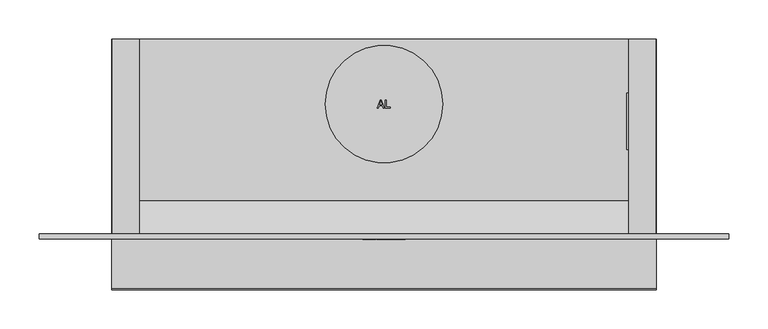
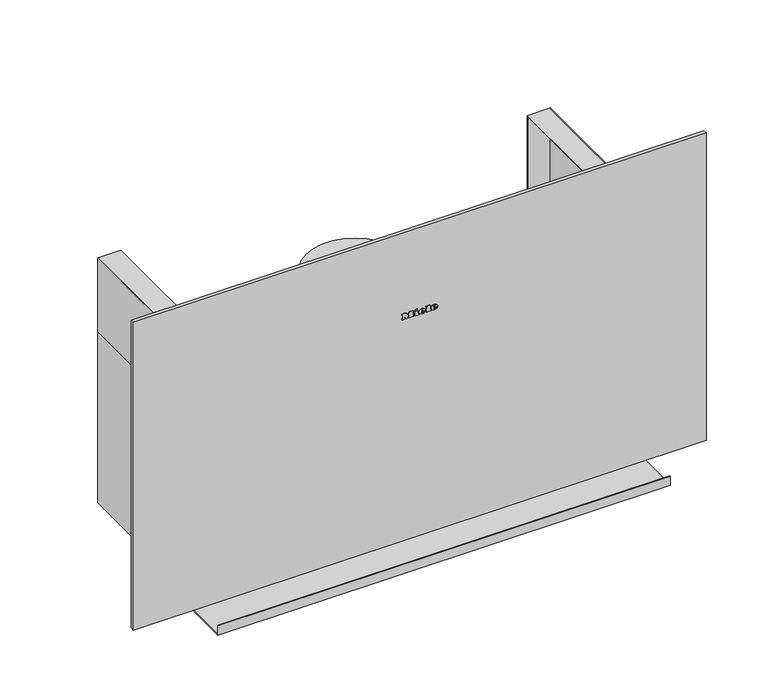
"""IFC4 building model written with IfcOpenShell, lengths in millimetres: proxy geometry, 11678440_D_DA9091W_OBSW : 28909140_D_11678440_DA9091W_OBSW."""

from ifc_helpers import new_model, si_unit, point, frame, frame_2d, origin, place, context, project, spatial, polyline, circle_curve, ellipse_curve, trimmed, segment, composite_curve, outline, extrude, faceted_brep, source, transform, mapped, element, save
from ifc_brep_helpers import plane_surface, cylinder_surface, revolved_surface, extruded_surface, advanced_brep


def specialty_equipment_b4d667ea(model_context):
    return source(origin(), model_context, "Body", "SolidModel", [
        advanced_brep(
        [(21.38, -256.0, 363.133), (21.38, -256.0, 364.042), (27.401, -256.0, 364.042), (16.925, -256.0, 364.042), (19.4, -256.0, 361.0), (27.248, -256.0, 363.133), (24.53, -256.0, 363.133), (22.388, -256.0, 362.125), (21.38, -256.0, 365.194), (21.38, -256.0, 366.175), (22.919, -256.0, 366.175), (22.919, -256.0, 365.194), (21.38, -255.0, 363.133), (22.388, -255.0, 362.125), (24.53, -255.0, 363.133), (27.248, -255.0, 363.133), (19.4, -255.0, 361.0), (16.925, -255.0, 364.042), (27.401, -255.0, 364.042), (21.38, -255.0, 364.042), (21.38, -255.0, 365.194), (22.919, -255.0, 365.194), (22.919, -255.0, 366.175), (21.38, -255.0, 366.175)],
        [
            (0, 1),
            (1, 2),
            (2, 3, ellipse_curve(frame((22.163, -256.0, 364.042), z_axis=(0.0, -1.0, 0.0), x_axis=(-1.0, 0.0, 0.0)), 5.238, 4.329)),
            (3, 4, circle_curve(frame((20.4080491, -256.0, 364.348), z_axis=(0.0, -1.0, 0.0), x_axis=(0.0, 0.0, -1.0)), 3.4964649)),
            (4, 5, circle_curve(frame((22.0581428, -256.0, 366.724), z_axis=(0.0, -1.0, 0.0), x_axis=(0.0, 0.0, -1.0)), 6.3110933)),
            (5, 6),
            (6, 7, circle_curve(frame((22.8279412, -256.0, 363.97), z_axis=(0.0, 1.0, 0.0), x_axis=(0.0, 0.0, -1.0)), 1.896727)),
            (7, 0, circle_curve(frame((22.388, -256.0, 363.133), z_axis=(0.0, 1.0, 0.0), x_axis=(0.0, 0.0, -1.0)), 1.008)),
            (8, 9),
            (9, 10, circle_curve(frame((22.1495, -256.0, 366.175), z_axis=(0.0, 1.0, 0.0), x_axis=(0.0, 0.0, -1.0)), 0.7695)),
            (10, 11),
            (11, 8),
            (12, 13, circle_curve(frame((22.388, -255.0, 363.133), z_axis=(0.0, -1.0, 0.0), x_axis=(0.0, 0.0, -1.0)), 1.008)),
            (13, 14, circle_curve(frame((22.8279412, -255.0, 363.97), z_axis=(0.0, -1.0, 0.0), x_axis=(0.0, 0.0, -1.0)), 1.896727)),
            (14, 15),
            (15, 16, circle_curve(frame((22.0581428, -255.0, 366.724), z_axis=(0.0, 1.0, 0.0), x_axis=(0.0, 0.0, -1.0)), 6.3110933)),
            (16, 17, circle_curve(frame((20.4080491, -255.0, 364.348), z_axis=(0.0, 1.0, 0.0), x_axis=(0.0, 0.0, -1.0)), 3.4964649)),
            (17, 18, ellipse_curve(frame((22.163, -255.0, 364.042), z_axis=(0.0, 1.0, 0.0), x_axis=(-1.0, 0.0, 0.0)), 5.238, 4.329)),
            (18, 19),
            (19, 12),
            (20, 21),
            (21, 22),
            (22, 23, circle_curve(frame((22.1495, -255.0, 366.175), z_axis=(0.0, -1.0, 0.0), x_axis=(0.0, 0.0, -1.0)), 0.7695)),
            (23, 20),
            (0, 12),
            (19, 1),
            (18, 2),
            (5, 15),
            (14, 6),
            (17, 3),
            (13, 7),
            (16, 4),
            (8, 20),
            (23, 9),
            (22, 10),
            (21, 11),
        ],
        [
            plane_surface(frame((21.38, -256.0, 364.042), z_axis=(0.0, -1.0, 0.0), x_axis=(0.0, 0.0, 1.0))),
            plane_surface(frame((21.38, -255.0, 364.042), z_axis=(0.0, 1.0, 0.0), x_axis=(0.0, 0.0, -1.0))),
            plane_surface(frame((21.38, -256.0, 363.133), z_axis=(1.0, 0.0, 0.0), x_axis=(0.0, 1.0, 0.0))),
            plane_surface(frame((21.38, -256.0, 364.042), z_axis=(0.0, 0.0, -1.0), x_axis=(0.0, 1.0, 0.0))),
            plane_surface(frame((27.248, -256.0, 363.133), z_axis=(0.0, 0.0, 1.0), x_axis=(0.0, 1.0, 0.0))),
            extruded_surface(trimmed(ellipse_curve(frame((22.163, -254.0, 364.042), z_axis=(0.0, -1.0, 0.0), x_axis=(-1.0, 0.0, 0.0)), 5.238, 4.329), [point((27.401, -254.0, 364.042))], [point((16.925, -254.0, 364.042))], True, "CARTESIAN"), (0.0, -1.0, 0.0), 1.0),
            revolved_surface(polyline([(22.8279412, -255.0, 362.07327300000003), (22.8279412, -256.0, 362.07327300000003)]), (22.8279412, -255.0, 363.97), (0.0, 1.0, 0.0)),
            revolved_surface(polyline([(22.388, -255.0, 362.125), (22.388, -256.0, 362.125)]), (22.388, -255.0, 363.133), (0.0, 1.0, 0.0)),
            cylinder_surface(frame((20.4080491, -255.0, 364.348), z_axis=(0.0, -1.0, 0.0), x_axis=(0.0, 0.0, -1.0)), 3.4964649),
            cylinder_surface(frame((22.0581428, -255.0, 366.724), z_axis=(0.0, -1.0, 0.0), x_axis=(0.0, 0.0, -1.0)), 6.3110933),
            plane_surface(frame((21.38, -256.0, 365.194), z_axis=(1.0, 0.0, 0.0), x_axis=(0.0, 1.0, 0.0))),
            revolved_surface(polyline([(22.1495, -255.0, 365.4055), (22.1495, -256.0, 365.4055)]), (22.1495, -255.0, 366.175), (0.0, 1.0, 0.0)),
            plane_surface(frame((22.919, -256.0, 366.175), z_axis=(-1.0, 0.0, 0.0), x_axis=(0.0, 1.0, 0.0))),
            plane_surface(frame((22.919, -256.0, 365.194), z_axis=(0.0, 0.0, 1.0), x_axis=(0.0, 1.0, 0.0))),
        ],
        [
            (0, [[1, 2, 3, 4, 5, 6, 7, 8], [9, 10, 11, 12]]),
            (1, [[13, 14, 15, 16, 17, 18, 19, 20], [21, 22, 23, 24]]),
            (2, [[-1, 25, -20, 26]]),
            (3, [[-2, -26, -19, 27]]),
            (4, [[-6, 28, -15, 29]]),
            (5, [[-3, -27, -18, 30]]),
            (6, [[-7, -29, -14, 31]]),
            (7, [[-8, -31, -13, -25]]),
            (8, [[-4, -30, -17, 32]]),
            (9, [[-5, -32, -16, -28]]),
            (10, [[-9, 33, -24, 34]]),
            (11, [[-10, -34, -23, 35]]),
            (12, [[-11, -35, -22, 36]]),
            (13, [[-12, -36, -21, -33]]),
        ],
    ),
        advanced_brep(
        [(2.597, -256.0, 363.133), (2.597, -256.0, 364.042), (8.618, -256.0, 364.042), (-1.858, -256.0, 364.042), (0.617, -256.0, 361.0), (8.465, -256.0, 363.133), (5.747, -256.0, 363.133), (3.605, -256.0, 362.125), (2.597, -256.0, 365.194), (2.597, -256.0, 366.175), (4.136, -256.0, 366.175), (4.136, -256.0, 365.194), (2.597, -255.0, 363.133), (3.605, -255.0, 362.125), (5.747, -255.0, 363.133), (8.465, -255.0, 363.133), (0.617, -255.0, 361.0), (-1.858, -255.0, 364.042), (8.618, -255.0, 364.042), (2.597, -255.0, 364.042), (2.597, -255.0, 365.194), (4.136, -255.0, 365.194), (4.136, -255.0, 366.175), (2.597, -255.0, 366.175)],
        [
            (0, 1),
            (1, 2),
            (2, 3, ellipse_curve(frame((3.38, -256.0, 364.042), z_axis=(0.0, -1.0, 0.0), x_axis=(-1.0, 0.0, 0.0)), 5.238, 4.329)),
            (3, 4, circle_curve(frame((1.6250491, -256.0, 364.348), z_axis=(0.0, -1.0, 0.0), x_axis=(0.0, 0.0, -1.0)), 3.4964649)),
            (4, 5, circle_curve(frame((3.2751428, -256.0, 366.724), z_axis=(0.0, -1.0, 0.0), x_axis=(0.0, 0.0, -1.0)), 6.3110933)),
            (5, 6),
            (6, 7, circle_curve(frame((4.0449412, -256.0, 363.97), z_axis=(0.0, 1.0, 0.0), x_axis=(0.0, 0.0, -1.0)), 1.896727)),
            (7, 0, circle_curve(frame((3.605, -256.0, 363.133), z_axis=(0.0, 1.0, 0.0), x_axis=(0.0, 0.0, -1.0)), 1.008)),
            (8, 9),
            (9, 10, circle_curve(frame((3.3665, -256.0, 366.175), z_axis=(0.0, 1.0, 0.0), x_axis=(0.0, 0.0, -1.0)), 0.7695)),
            (10, 11),
            (11, 8),
            (12, 13, circle_curve(frame((3.605, -255.0, 363.133), z_axis=(0.0, -1.0, 0.0), x_axis=(0.0, 0.0, -1.0)), 1.008)),
            (13, 14, circle_curve(frame((4.0449412, -255.0, 363.97), z_axis=(0.0, -1.0, 0.0), x_axis=(0.0, 0.0, -1.0)), 1.896727)),
            (14, 15),
            (15, 16, circle_curve(frame((3.2751428, -255.0, 366.724), z_axis=(0.0, 1.0, 0.0), x_axis=(0.0, 0.0, -1.0)), 6.3110933)),
            (16, 17, circle_curve(frame((1.6250491, -255.0, 364.348), z_axis=(0.0, 1.0, 0.0), x_axis=(0.0, 0.0, -1.0)), 3.4964649)),
            (17, 18, ellipse_curve(frame((3.38, -255.0, 364.042), z_axis=(0.0, 1.0, 0.0), x_axis=(-1.0, 0.0, 0.0)), 5.238, 4.329)),
            (18, 19),
            (19, 12),
            (20, 21),
            (21, 22),
            (22, 23, circle_curve(frame((3.3665, -255.0, 366.175), z_axis=(0.0, -1.0, 0.0), x_axis=(0.0, 0.0, -1.0)), 0.7695)),
            (23, 20),
            (0, 12),
            (19, 1),
            (18, 2),
            (5, 15),
            (14, 6),
            (17, 3),
            (13, 7),
            (16, 4),
            (8, 20),
            (23, 9),
            (22, 10),
            (21, 11),
        ],
        [
            plane_surface(frame((2.597, -256.0, 364.042), z_axis=(0.0, -1.0, 0.0), x_axis=(0.0, 0.0, 1.0))),
            plane_surface(frame((2.597, -255.0, 364.042), z_axis=(0.0, 1.0, 0.0), x_axis=(0.0, 0.0, -1.0))),
            plane_surface(frame((2.597, -256.0, 363.133), z_axis=(1.0, 0.0, 0.0), x_axis=(0.0, 1.0, 0.0))),
            plane_surface(frame((2.597, -256.0, 364.042), z_axis=(0.0, 0.0, -1.0), x_axis=(0.0, 1.0, 0.0))),
            plane_surface(frame((8.465, -256.0, 363.133), z_axis=(0.0, 0.0, 1.0), x_axis=(0.0, 1.0, 0.0))),
            extruded_surface(trimmed(ellipse_curve(frame((3.38, -254.0, 364.042), z_axis=(0.0, -1.0, 0.0), x_axis=(-1.0, 0.0, 0.0)), 5.238, 4.329), [point((8.618, -254.0, 364.042))], [point((-1.858, -254.0, 364.042))], True, "CARTESIAN"), (0.0, -1.0, 0.0), 1.0),
            revolved_surface(polyline([(4.0449412, -255.0, 362.07327300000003), (4.0449412, -256.0, 362.07327300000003)]), (4.0449412, -255.0, 363.97), (0.0, 1.0, 0.0)),
            revolved_surface(polyline([(3.605, -255.0, 362.125), (3.605, -256.0, 362.125)]), (3.605, -255.0, 363.133), (0.0, 1.0, 0.0)),
            cylinder_surface(frame((1.6250491, -255.0, 364.348), z_axis=(0.0, -1.0, 0.0), x_axis=(0.0, 0.0, -1.0)), 3.4964649),
            cylinder_surface(frame((3.2751428, -255.0, 366.724), z_axis=(0.0, -1.0, 0.0), x_axis=(0.0, 0.0, -1.0)), 6.3110933),
            plane_surface(frame((2.597, -256.0, 365.194), z_axis=(1.0, 0.0, 0.0), x_axis=(0.0, 1.0, 0.0))),
            revolved_surface(polyline([(3.3665, -255.0, 365.4055), (3.3665, -256.0, 365.4055)]), (3.3665, -255.0, 366.175), (0.0, 1.0, 0.0)),
            plane_surface(frame((4.136, -256.0, 366.175), z_axis=(-1.0, 0.0, 0.0), x_axis=(0.0, 1.0, 0.0))),
            plane_surface(frame((4.136, -256.0, 365.194), z_axis=(0.0, 0.0, 1.0), x_axis=(0.0, 1.0, 0.0))),
        ],
        [
            (0, [[1, 2, 3, 4, 5, 6, 7, 8], [9, 10, 11, 12]]),
            (1, [[13, 14, 15, 16, 17, 18, 19, 20], [21, 22, 23, 24]]),
            (2, [[-1, 25, -20, 26]]),
            (3, [[-2, -26, -19, 27]]),
            (4, [[-6, 28, -15, 29]]),
            (5, [[-3, -27, -18, 30]]),
            (6, [[-7, -29, -14, 31]]),
            (7, [[-8, -31, -13, -25]]),
            (8, [[-4, -30, -17, 32]]),
            (9, [[-5, -32, -16, -28]]),
            (10, [[-9, 33, -24, 34]]),
            (11, [[-10, -34, -23, 35]]),
            (12, [[-11, -35, -22, 36]]),
            (13, [[-12, -36, -21, -33]]),
        ],
    ),
        extrude(outline(polyline([(369.469, -7.24), (368.011, -6.556), (369.433, -3.505), (370.891, -4.18), (369.469, -7.24)])), frame((0.0, -256.0, 0.0), z_axis=(0.0, 1.0, 0.0), x_axis=(0.0, 0.0, 1.0)), (0.0, 0.0, 1.0), 1.0),
        extrude(outline(polyline([(367.813, -9.463), (366.202, -9.463), (366.202, -8.392), (362.512, -8.392), (362.512, -9.463), (361.0, -9.463), (361.0, -2.362), (362.512, -2.362), (362.512, -3.406), (367.813, -3.406), (367.813, -9.463)])), frame((0.0, -256.0, 0.0), z_axis=(0.0, 1.0, 0.0), x_axis=(0.0, 0.0, 1.0)), (0.0, 0.0, 1.0), 1.0),
        extrude(outline(polyline([(368.533, 9.122), (368.533, 10.202), (362.512, 10.202), (362.512, 9.122), (361.0, 9.122), (361.0, 16.421), (362.512, 16.421), (362.512, 15.314), (370.0, 15.314), (370.0, 9.122), (368.533, 9.122)])), frame((0.0, -256.0, 0.0), z_axis=(0.0, 1.0, 0.0), x_axis=(0.0, 0.0, 1.0)), (0.0, 0.0, 1.0), 1.0),
        extrude(outline(polyline([(368.533, -27.4), (368.533, -26.311), (362.512, -26.311), (362.512, -27.4), (361.0, -27.4), (361.0, -23.44), (362.512, -23.44), (362.512, -24.52), (366.3341247, -24.52), (361.0, -20.497), (366.4402223, -16.456), (362.512, -16.456), (362.512, -17.563), (361.0, -17.563), (361.0, -10.381), (362.512, -10.381), (362.512, -11.524), (368.533, -11.524), (368.533, -10.381), (370.0, -10.381), (370.0, -15.862), (366.625, -18.49), (370.0, -21.127), (370.0, -27.4), (368.533, -27.4)])), frame((0.0, -256.0, 0.0), z_axis=(0.0, 1.0, 0.0), x_axis=(0.0, 0.0, 1.0)), (0.0, 0.0, 1.0), 1.0),
        extrude(outline(polyline([(119.0, -217.5), (119.0, -229.5), (-119.0, -229.5), (-119.0, -217.5), (119.0, -217.5)])), frame((0.0, 0.0, 24.0), z_axis=(0.0, 0.0, 1.0), x_axis=(1.0, 0.0, 0.0)), (0.0, 0.0, 1.0), 3.0),
        extrude(outline(composite_curve([segment(trimmed(circle_curve(frame_2d((123.5, -212.0)), 1.5), [point((123.5, -210.5))], [point((125.0, -212.0))], False, "CARTESIAN"), True, "CONTINUOUS"), segment(polyline([(125.0, -212.0), (125.0, -235.0)]), True, "CONTINUOUS"), segment(trimmed(circle_curve(frame_2d((123.5, -235.0)), 1.5), [point((125.0, -235.0))], [point((123.5, -236.5))], False, "CARTESIAN"), True, "CONTINUOUS"), segment(polyline([(123.5, -236.5), (-123.5, -236.5)]), True, "CONTINUOUS"), segment(trimmed(circle_curve(frame_2d((-123.5, -235.0)), 1.5), [point((-123.5, -236.5))], [point((-125.0, -235.0))], False, "CARTESIAN"), True, "CONTINUOUS"), segment(polyline([(-125.0, -235.0), (-125.0, -212.0)]), True, "CONTINUOUS"), segment(trimmed(circle_curve(frame_2d((-123.5, -212.0)), 1.5), [point((-125.0, -212.0))], [point((-123.5, -210.5))], False, "CARTESIAN"), True, "CONTINUOUS"), segment(polyline([(-123.5, -210.5), (123.5, -210.5)]), True, "CONTINUOUS")], self_intersect=False), holes=[polyline([(119.0, -217.5), (-119.0, -217.5), (-119.0, -229.5), (119.0, -229.5), (119.0, -217.5)])]), frame((0.0, 0.0, 24.0), z_axis=(0.0, 0.0, 1.0), x_axis=(1.0, 0.0, 0.0)), (0.0, 0.0, 1.0), 3.0),
        extrude(outline(polyline([(-139.5, -146.0), (-139.5, -189.0), (-172.5, -189.0), (-172.5, -146.0), (-139.5, -146.0)]), holes=[polyline([(-146.0, -152.5), (-166.0, -152.5), (-166.0, -182.5), (-146.0, -182.5), (-146.0, -152.5)])]), frame((0.0, 0.0, 26.0), z_axis=(0.0, 0.0, 1.0), x_axis=(1.0, 0.0, 0.0)), (0.0, 0.0, 1.0), 1.5),
        extrude(outline(polyline([(139.5, -146.0), (172.5, -146.0), (172.5, -189.0), (139.5, -189.0), (139.5, -146.0)]), holes=[polyline([(146.0, -152.5), (146.0, -182.5), (166.0, -182.5), (166.0, -152.5), (146.0, -152.5)])]), frame((0.0, 0.0, 26.0), z_axis=(0.0, 0.0, 1.0), x_axis=(1.0, 0.0, 0.0)), (0.0, 0.0, 1.0), 1.5),
        extrude(outline(polyline([(-9.0, -29.0), (-9.0, -189.0), (-303.0, -189.0), (-303.0, -29.0), (-9.0, -29.0)])), frame((0.0, 0.0, 27.5), z_axis=(0.0, 0.0, 1.0), x_axis=(1.0, 0.0, 0.0)), (0.0, 0.0, 1.0), 6.0),
        extrude(outline(polyline([(303.0, -29.0), (303.0, -189.0), (9.0, -189.0), (9.0, -29.0), (303.0, -29.0)])), frame((0.0, 0.0, 27.5), z_axis=(0.0, 0.0, 1.0), x_axis=(1.0, 0.0, 0.0)), (0.0, 0.0, 1.0), 6.0),
        extrude(outline(polyline([(312.0, -20.0), (312.0, -198.0), (-312.0, -198.0), (-312.0, -20.0), (312.0, -20.0)]), holes=[polyline([(-9.0, -29.0), (-303.0, -29.0), (-303.0, -189.0), (-9.0, -189.0), (-9.0, -29.0)]), polyline([(303.0, -29.0), (9.0, -29.0), (9.0, -189.0), (303.0, -189.0), (303.0, -29.0)])]), frame((0.0, 0.0, 26.0), z_axis=(0.0, 0.0, 1.0), x_axis=(1.0, 0.0, 0.0)), (0.0, 0.0, 1.0), 9.0),
        extrude(outline(polyline([(-146.0, -162.5), (-146.0, -182.5), (-166.0, -182.5), (-166.0, -162.5), (-146.0, -162.5)])), frame((0.0, 0.0, 26.0), z_axis=(0.0, 0.0, 1.0), x_axis=(1.0, 0.0, 0.0)), (0.0, 0.0, 1.0), 1.5),
        extrude(outline(polyline([(146.0, -162.5), (166.0, -162.5), (166.0, -182.5), (146.0, -182.5), (146.0, -162.5)])), frame((0.0, 0.0, 26.0), z_axis=(0.0, 0.0, 1.0), x_axis=(1.0, 0.0, 0.0)), (0.0, 0.0, 1.0), 1.5),
        extrude(outline(polyline([(319.841452, -85.9529261), (319.841452, -87.2088136), (313.8778325, -87.2088136), (313.8778325, -90.2299035), (319.5327316, -90.2299035), (319.5327316, -91.4937168), (313.8778325, -91.4937168), (313.8778325, -94.7885181), (320.00259, -94.7885181), (320.00259, -96.0470739), (312.6222441, -96.0470739), (312.6222441, -85.9529261), (319.841452, -85.9529261)])), frame((0.0, 0.0, 346.0), z_axis=(0.0, 0.0, 1.0), x_axis=(1.0, 0.0, 0.0)), (0.0, 0.0, 1.0), 1.0),
        extrude(outline(polyline([(321.8810892, -95.9942733), (321.8810892, -85.945763), (323.1586419, -85.945763), (323.1586419, -94.7376744), (328.1586419, -94.7376744), (328.1586419, -95.9942733), (321.8810892, -95.9942733)])), frame((0.0, 0.0, 346.0), z_axis=(0.0, 0.0, 1.0), x_axis=(1.0, 0.0, 0.0)), (0.0, 0.0, 1.0), 1.0),
        extrude(outline(composite_curve([segment(trimmed(circle_curve(frame_2d((320.0, -91.0)), 7.5), [point((327.5, -91.0))], [point((312.5, -91.0))], False, "CARTESIAN"), True, "CONTINUOUS"), segment(trimmed(circle_curve(frame_2d((320.0, -91.0)), 7.5), [point((312.5, -91.0))], [point((327.5, -91.0))], False, "CARTESIAN"), True, "CONTINUOUS")], self_intersect=False)), frame((0.0, 0.0, 316.0), z_axis=(0.0, 0.0, 1.0), x_axis=(1.0, 0.0, 0.0)), (0.0, 0.0, 1.0), 30.0),
        extrude(outline(polyline([(336.0, -69.0), (336.0, -141.0), (310.0, -141.0), (310.0, -69.0), (336.0, -69.0)])), frame((0.0, 0.0, 299.0), z_axis=(0.0, 0.0, 1.0), x_axis=(1.0, 0.0, 0.0)), (0.0, 0.0, 1.0), 17.0),
        extrude(outline(polyline([(312.5, 0.0), (346.5, 0.0), (346.5, -1.0), (312.5, -1.0), (312.5, 0.0)])), frame((0.0, 0.0, 299.0), z_axis=(0.0, 0.0, 1.0), x_axis=(1.0, 0.0, 0.0)), (0.0, 0.0, 1.0), 119.0),
        extrude(outline(polyline([(-346.5, 0.0), (-312.5, 0.0), (-312.5, -1.0), (-346.5, -1.0), (-346.5, 0.0)])), frame((0.0, 0.0, 299.0), z_axis=(0.0, 0.0, 1.0), x_axis=(1.0, 0.0, 0.0)), (0.0, 0.0, 1.0), 119.0),
        extrude(outline(polyline([(-4.5486427, -77.9570797), (-3.4705465, -77.9570797), (0.5431319, -87.997251), (-0.7849958, -87.997251), (-1.9299575, -84.8514948), (-6.0737375, -84.8514948), (-7.2212702, -88.004315), (-8.548697, -88.004315), (-4.5486427, -77.9570797)]), holes=[polyline([(-4.0018475, -79.1590237), (-5.6174469, -83.5978465), (-2.3862481, -83.5978465), (-4.0018475, -79.1590237)])]), frame((0.0, 0.0, 327.0), z_axis=(0.0, 0.0, 1.0), x_axis=(1.0, 0.0, 0.0)), (0.0, 0.0, 1.0), 1.0),
        extrude(outline(polyline([(1.8708393, -87.9956267), (1.8708393, -77.9403882), (3.1645666, -77.9403882), (3.1645666, -86.7408572), (8.1645666, -86.7408572), (8.1645666, -87.9956267), (1.8708393, -87.9956267)])), frame((0.0, 0.0, 327.0), z_axis=(0.0, 0.0, 1.0), x_axis=(1.0, 0.0, 0.0)), (0.0, 0.0, 1.0), 1.0),
        extrude(outline(polyline([(-312.5, 0.0), (-312.5, -249.0), (-346.5, -249.0), (-346.5, 0.0), (-312.5, 0.0)])), frame((0.0, 0.0, 418.0), z_axis=(0.0, 0.0, 1.0), x_axis=(1.0, 0.0, 0.0)), (0.0, 0.0, 1.0), 1.0),
        extrude(outline(polyline([(346.5, 0.0), (346.5, -249.0), (312.5, -249.0), (312.5, 0.0), (346.5, 0.0)])), frame((0.0, 0.0, 418.0), z_axis=(0.0, 0.0, 1.0), x_axis=(1.0, 0.0, 0.0)), (0.0, 0.0, 1.0), 1.0),
        extrude(outline(polyline([(347.5, 0.0), (347.5, -249.0), (346.5, -249.0), (346.5, 0.0), (347.5, 0.0)])), frame((0.0, 0.0, 299.0), z_axis=(0.0, 0.0, 1.0), x_axis=(1.0, 0.0, 0.0)), (0.0, 0.0, 1.0), 120.0),
        extrude(outline(polyline([(-346.5, 0.0), (-346.5, -249.0), (-347.5, -249.0), (-347.5, 0.0), (-346.5, 0.0)])), frame((0.0, 0.0, 299.0), z_axis=(0.0, 0.0, 1.0), x_axis=(1.0, 0.0, 0.0)), (0.0, 0.0, 1.0), 120.0),
        extrude(outline(polyline([(-207.0353896, 299.0), (-249.0, 299.0), (-249.0, 340.9646104), (-207.0353896, 299.0)])), frame((-346.5, 0.0, 0.0), z_axis=(1.0, 0.0, 0.0), x_axis=(0.0, 1.0, 0.0)), (0.0, 0.0, 1.0), 693.0),
        faceted_brep([(347.5, 0.0, 299.0), (-347.5, 0.0, 299.0), (-347.5, -249.0, 299.0), (347.5, -249.0, 299.0), (347.5, 0.0, 21.0), (347.5, -249.0, 21.0), (-347.5, -249.0, 21.0), (-347.5, 0.0, 21.0), (125.5, -210.0, 21.0), (-125.5, -210.0, 21.0), (-125.5, -237.0, 21.0), (125.5, -237.0, 21.0), (312.5, -19.0, 21.0), (-312.5, -19.0, 21.0), (-312.5, -198.0, 21.0), (312.5, -198.0, 21.0), (125.5, -210.0, 27.0), (125.5, -237.0, 27.0), (-125.5, -237.0, 27.0), (-125.5, -210.0, 27.0), (312.5, -19.0, 35.0), (312.5, -198.0, 35.0), (-312.5, -198.0, 35.0), (-312.5, -19.0, 35.0)], [[[0, 1, 2, 3]], [[4, 5, 6, 7], [8, 9, 10, 11], [12, 13, 14, 15]], [[1, 0, 4, 7]], [[2, 1, 7, 6]], [[3, 2, 6, 5]], [[0, 3, 5, 4]], [[16, 17, 18, 19]], [[16, 19, 9, 8]], [[19, 18, 10, 9]], [[18, 17, 11, 10]], [[17, 16, 8, 11]], [[20, 21, 22, 23]], [[20, 23, 13, 12]], [[23, 22, 14, 13]], [[22, 21, 15, 14]], [[21, 20, 12, 15]]]),
        extrude(outline(composite_curve([segment(trimmed(circle_curve(frame_2d((0.0, -83.0)), 75.0), [point((75.0, -83.0))], [point((-75.0, -83.0))], False, "CARTESIAN"), True, "CONTINUOUS"), segment(trimmed(circle_curve(frame_2d((0.0, -83.0)), 75.0), [point((-75.0, -83.0))], [point((75.0, -83.0))], False, "CARTESIAN"), True, "CONTINUOUS")], self_intersect=False)), frame((0.0, 0.0, 299.0), z_axis=(0.0, 0.0, 1.0), x_axis=(1.0, 0.0, 0.0)), (0.0, 0.0, 1.0), 28.0),
        extrude(outline(polyline([(-440.0, -249.0), (440.0, -249.0), (440.0, -255.0), (-440.0, -255.0), (-440.0, -249.0)])), frame((0.0, 0.0, 1.0), z_axis=(0.0, 0.0, 1.0), x_axis=(1.0, 0.0, 0.0)), (0.0, 0.0, 1.0), 500.0),
        extrude(outline(polyline([(-248.0, 21.0), (-248.0, 0.0), (-320.0, 0.0), (-320.0, 15.0), (-319.0, 15.0), (-319.0, 1.0), (-249.0, 1.0), (-249.0, 21.0), (-248.0, 21.0)])), frame((-347.5, 0.0, 0.0), z_axis=(1.0, 0.0, 0.0), x_axis=(0.0, 1.0, 0.0)), (0.0, 0.0, 1.0), 695.0),
    ])


if __name__ == "__main__":
    model = new_model("IFC4")
    model_context = context("Model", 3, world=origin())
    ifc_project = project(units=[si_unit("LENGTHUNIT", "METRE", prefix="MILLI")], contexts=[model_context])
    site = spatial("IfcSite", under=ifc_project)
    building = spatial("IfcBuilding", under=site)
    placement = place(None, origin())
    specialty_equipment_shape = specialty_equipment_b4d667ea(model_context)
    element("IfcBuildingElementProxy", 1, Name="11678440_D_DA9091W_OBSW : 28909140_D_11678440_DA9091W_OBSW", ObjectType="11678440_D_DA9091W_OBSW : 28909140_D_11678440_DA9091W_OBSW", at=placement, inside=building, context=model_context, shape_type="MappedRepresentation", body=[
        mapped(specialty_equipment_shape, transform((0.0, 0.0, 0.0), x_axis=(1.0, 0.0, 0.0), y_axis=(0.0, 1.0, 0.0), z_axis=(0.0, 0.0, 1.0))),
    ])
    save(model, "model.ifc")
